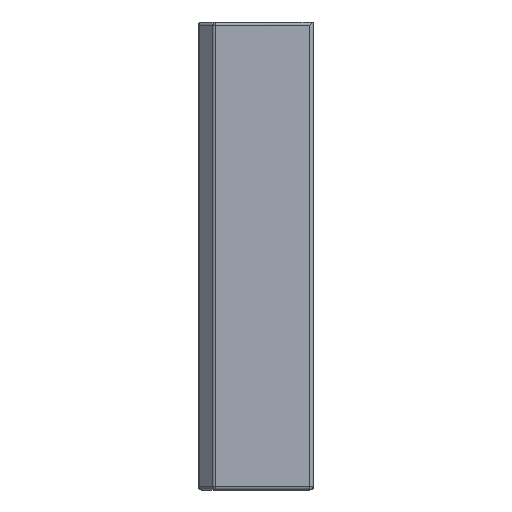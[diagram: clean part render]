
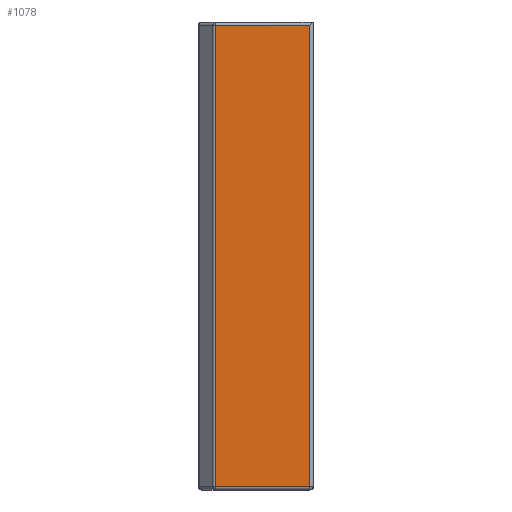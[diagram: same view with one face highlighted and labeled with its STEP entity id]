
A CAD part, front view. The second image highlights one B-rep face of the part: STEP entity #1078.
In plain terms, the highlighted planar face has unit normal (0, -1, 0).
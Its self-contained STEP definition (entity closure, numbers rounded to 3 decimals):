
#864 = EDGE_LOOP ( 'NONE', ( #1855, #1856, #1857, #1858 ) ) ;
#1078 = ADVANCED_FACE ( 'NONE', ( #4695 ), #5808, .F. ) ;
#1482 = EDGE_CURVE ( 'NONE', #3855, #3904, #7115, .T. ) ;
#1483 = EDGE_CURVE ( 'NONE', #3904, #3822, #7123, .T. ) ;
#1484 = EDGE_CURVE ( 'NONE', #3822, #3787, #7128, .T. ) ;
#1855 = ORIENTED_EDGE ( 'NONE', *, *, #1482, .T. ) ;
#1856 = ORIENTED_EDGE ( 'NONE', *, *, #1483, .T. ) ;
#1857 = ORIENTED_EDGE ( 'NONE', *, *, #1484, .T. ) ;
#1858 = ORIENTED_EDGE ( 'NONE', *, *, #2361, .T. ) ;
#2361 = EDGE_CURVE ( 'NONE', #3787, #3855, #7126, .T. ) ;
#3787 = VERTEX_POINT ( 'NONE', #11466 ) ;
#3822 = VERTEX_POINT ( 'NONE', #11501 ) ;
#3855 = VERTEX_POINT ( 'NONE', #11534 ) ;
#3904 = VERTEX_POINT ( 'NONE', #11583 ) ;
#4276 = AXIS2_PLACEMENT_3D ( 'NONE', #5810, #5815, #5816 ) ;
#4695 = FACE_OUTER_BOUND ( 'NONE', #864, .T. ) ;
#5808 = PLANE ( 'NONE',  #4276 ) ;
#5810 = CARTESIAN_POINT ( 'NONE',  ( 1.7, -31., 37.5 ) ) ;
#5815 = DIRECTION ( 'NONE',  ( 0., 1., 0. ) ) ;
#5816 = DIRECTION ( 'NONE',  ( -1., 0., 0. ) ) ;
#7115 = LINE ( 'NONE', #8712, #7127 ) ;
#7123 = LINE ( 'NONE', #8711, #7129 ) ;
#7126 = LINE ( 'NONE', #8725, #7133 ) ;
#7127 = VECTOR ( 'NONE', #8719, 1000. ) ;
#7128 = LINE ( 'NONE', #8721, #7131 ) ;
#7129 = VECTOR ( 'NONE', #8720, 1000. ) ;
#7131 = VECTOR ( 'NONE', #8723, 1000. ) ;
#7133 = VECTOR ( 'NONE', #8722, 1000. ) ;
#8711 = CARTESIAN_POINT ( 'NONE',  ( 1.7, -31., -37. ) ) ;
#8712 = CARTESIAN_POINT ( 'NONE',  ( -4.793, -31., 37.5 ) ) ;
#8719 = DIRECTION ( 'NONE',  ( 0., 0., -1. ) ) ;
#8720 = DIRECTION ( 'NONE',  ( 1., 0., 0. ) ) ;
#8721 = CARTESIAN_POINT ( 'NONE',  ( 10.4, -31., 37.5 ) ) ;
#8722 = DIRECTION ( 'NONE',  ( -1., 0., 0. ) ) ;
#8723 = DIRECTION ( 'NONE',  ( 0., 0., 1. ) ) ;
#8725 = CARTESIAN_POINT ( 'NONE',  ( -5., -31., 37. ) ) ;
#11466 = CARTESIAN_POINT ( 'NONE',  ( 10.4, -31., 37. ) ) ;
#11501 = CARTESIAN_POINT ( 'NONE',  ( 10.4, -31., -37. ) ) ;
#11534 = CARTESIAN_POINT ( 'NONE',  ( -4.793, -31., 37. ) ) ;
#11583 = CARTESIAN_POINT ( 'NONE',  ( -4.793, -31., -37. ) ) ;
